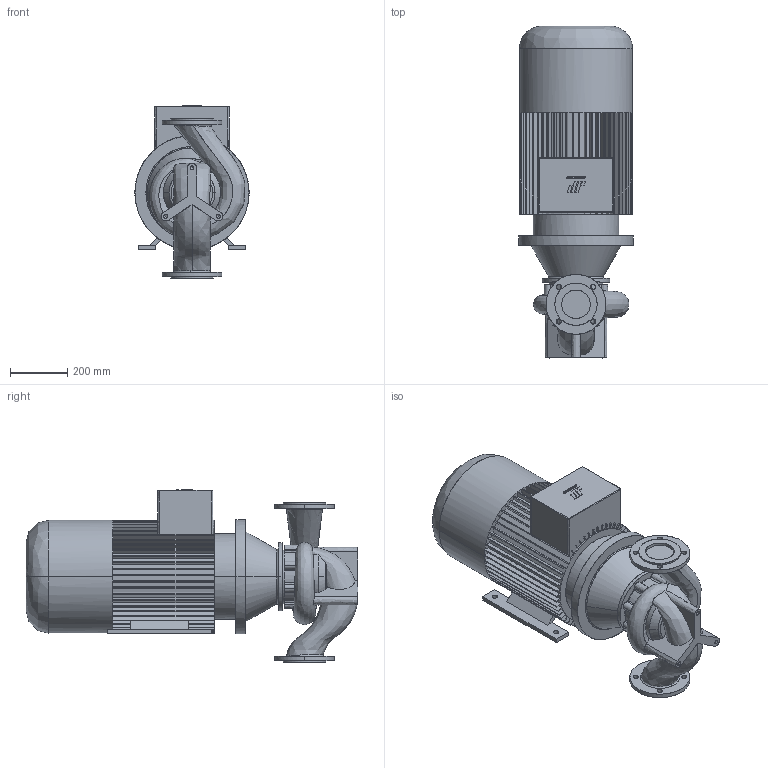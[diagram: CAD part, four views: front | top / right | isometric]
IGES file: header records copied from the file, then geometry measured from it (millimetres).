
Start section: CombiLine
Global section: file name: CLB_100-160_IEC200L.igs; native system:  By UGS Corp.; preprocessor: XPlus GENERIC/IGES 3.0; author: Stageplaats; organization: Johnson Pump Water B.V.; date: 20070716.085512; units: millimetre
Bounding box: 400 x 1163 x 605 mm (x, y, z)
Surface area: 2820349.7 mm2 (no closed solid volume)
Topology: 0 solids, 0 shells, 591 faces, 3593 edges, 3587 vertices
Faces by surface type: bspline 591
